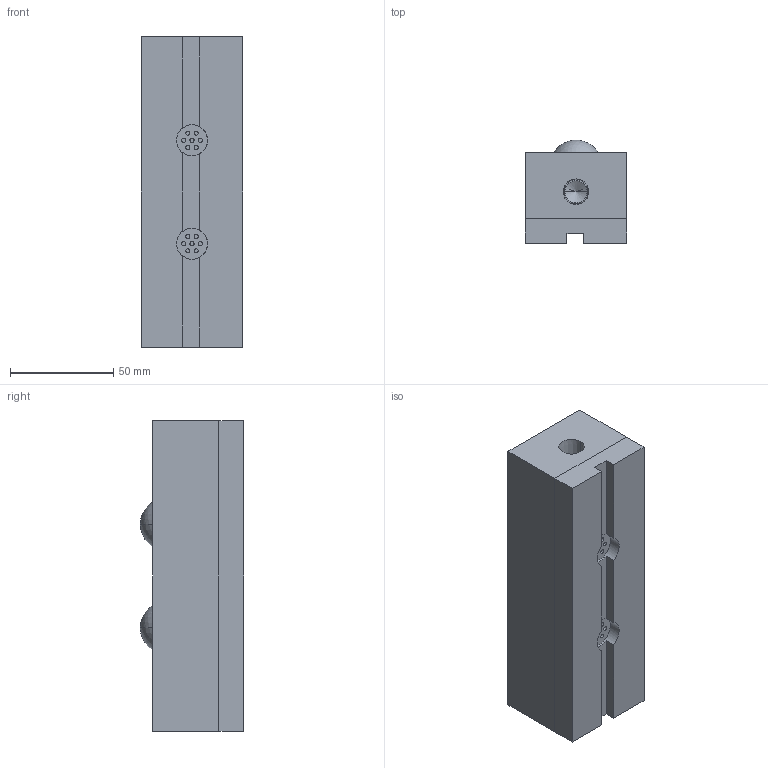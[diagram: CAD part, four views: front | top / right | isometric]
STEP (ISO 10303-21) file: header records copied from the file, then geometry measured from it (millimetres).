
FILE_DESCRIPTION (( 'STEP AP203' ), '1' );
FILE_NAME ('PVL55SH-2.STEP', '2016-01-25T01:04:54', ( '' ), ( '' ), 'SwSTEP 2.0', 'SolidWorks 2013', '' );
FILE_SCHEMA (( 'CONFIG_CONTROL_DESIGN' ));
Length unit declared in the file: millimetre
Products named in the file (1): PVL55SH-2
Bounding box: 49 x 50 x 150 mm (x, y, z)
Volume: 310944.6 mm3; surface area: 55915.2 mm2
Topology: 2 solids, 2 shells, 125 faces, 276 edges, 183 vertices
Faces by surface type: cylinder 66, plane 51, sphere 4, cone 4
Entity records: 3599 total; most frequent: DIRECTION 678, CARTESIAN_POINT 583, ORIENTED_EDGE 548, AXIS2_PLACEMENT_3D 278, EDGE_CURVE 274, VERTEX_POINT 183, EDGE_LOOP 163, CIRCLE 152
